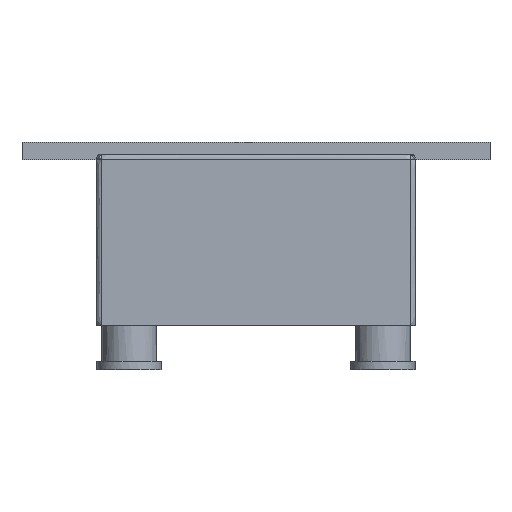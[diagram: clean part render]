
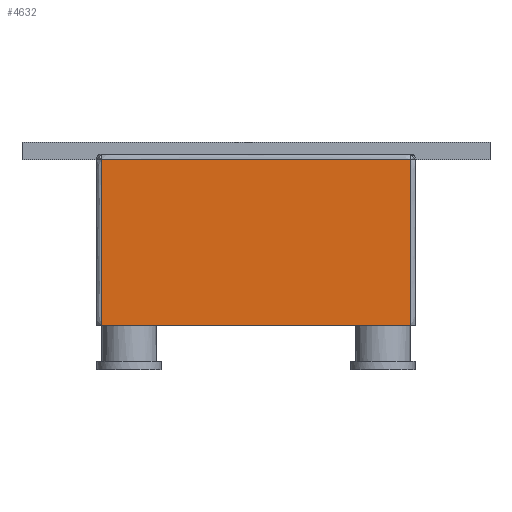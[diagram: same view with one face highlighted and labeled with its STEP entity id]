
A CAD part, front view. The second image highlights one B-rep face of the part: STEP entity #4632.
In plain terms, the highlighted free-form (B-spline) face has degree [1, 1] with [2, 2] control points.
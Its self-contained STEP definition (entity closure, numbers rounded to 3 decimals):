
#4212=CARTESIAN_POINT('',(140.,-80.,-93.));
#4213=VERTEX_POINT('',#4212);
#4220=CARTESIAN_POINT('',(-140.,-80.,-93.));
#4221=VERTEX_POINT('',#4220);
#4222=CARTESIAN_POINT('',(140.,-80.,-93.));
#4223=CARTESIAN_POINT('',(-140.,-80.,-93.));
#4224=B_SPLINE_CURVE_WITH_KNOTS('',1,(#4222,#4223),.POLYLINE_FORM.,.F.,.U.,(2,2),(0.,1.),.UNSPECIFIED.);
#4225=EDGE_CURVE('',#4213,#4221,#4224,.T.);
#4605=CARTESIAN_POINT('',(-608.178,-80.,398.178));
#4606=CARTESIAN_POINT('',(338.178,-80.,398.178));
#4607=CARTESIAN_POINT('',(-608.178,-80.,-548.178));
#4608=CARTESIAN_POINT('',(338.178,-80.,-548.178));
#4609=B_SPLINE_SURFACE_WITH_KNOTS('',1,1,((#4605,#4606),(#4607,#4608)),.PLANE_SURF.,.F.,.F.,.U.,(2,2),(2,2),(0.,1.),(0.,1.),.UNSPECIFIED.);
#4610=CARTESIAN_POINT('',(140.,-80.,58.));
#4611=VERTEX_POINT('',#4610);
#4612=CARTESIAN_POINT('',(140.,-80.,-93.));
#4613=CARTESIAN_POINT('',(140.,-80.,58.));
#4614=B_SPLINE_CURVE_WITH_KNOTS('',1,(#4612,#4613),.POLYLINE_FORM.,.F.,.U.,(2,2),(0.,0.926),.UNSPECIFIED.);
#4615=EDGE_CURVE('',#4213,#4611,#4614,.T.);
#4616=ORIENTED_EDGE('',*,*,#4615,.T.);
#4617=CARTESIAN_POINT('',(-140.,-80.,58.));
#4618=VERTEX_POINT('',#4617);
#4619=CARTESIAN_POINT('',(-140.,-80.,58.));
#4620=CARTESIAN_POINT('',(140.,-80.,58.));
#4621=B_SPLINE_CURVE_WITH_KNOTS('',1,(#4619,#4620),.POLYLINE_FORM.,.F.,.U.,(2,2),(0.434,0.899),.UNSPECIFIED.);
#4622=EDGE_CURVE('',#4618,#4611,#4621,.T.);
#4623=ORIENTED_EDGE('',*,*,#4622,.F.);
#4624=CARTESIAN_POINT('',(-140.,-80.,58.));
#4625=CARTESIAN_POINT('',(-140.,-80.,-93.));
#4626=B_SPLINE_CURVE_WITH_KNOTS('',1,(#4624,#4625),.POLYLINE_FORM.,.F.,.U.,(2,2),(0.074,1.),.UNSPECIFIED.);
#4627=EDGE_CURVE('',#4618,#4221,#4626,.T.);
#4628=ORIENTED_EDGE('',*,*,#4627,.T.);
#4629=ORIENTED_EDGE('',*,*,#4225,.F.);
#4630=EDGE_LOOP('',(#4616,#4623,#4628,#4629));
#4631=FACE_OUTER_BOUND('',#4630,.T.);
#4632=ADVANCED_FACE('',(#4631),#4609,.T.);
